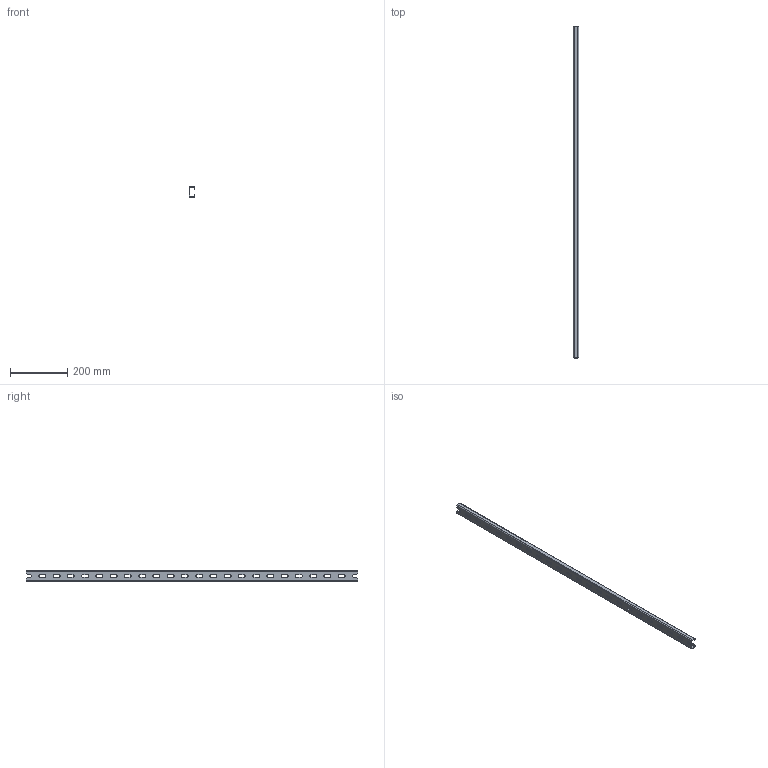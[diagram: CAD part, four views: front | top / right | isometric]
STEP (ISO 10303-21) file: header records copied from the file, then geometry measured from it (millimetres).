
FILE_DESCRIPTION (( 'STEP AP203' ), '1' );
FILE_NAME ('MG 120.04 C Òðàâåðñà ìîíòàæíàÿ.STEP', '2013-01-09T05:33:34', ( 'System' ), ( '' ), 'SwSTEP 2.0', 'SolidWorks 2012', '' );
FILE_SCHEMA (( 'CONFIG_CONTROL_DESIGN' ));
Length unit declared in the file: millimetre
Products named in the file (1): MG 120.04 C Òðàâåðñà ìîíòàæíàÿ
Bounding box: 18.5 x 1164.5 x 38 mm (x, y, z)
Volume: 185016.5 mm3; surface area: 192766.4 mm2
Topology: 1 solids, 1 shells, 142 faces, 388 edges, 248 vertices
Faces by surface type: plane 88, cylinder 54
Entity records: 4629 total; most frequent: DIRECTION 782, CARTESIAN_POINT 779, ORIENTED_EDGE 776, EDGE_CURVE 388, LINE 280, VECTOR 280, AXIS2_PLACEMENT_3D 251, VERTEX_POINT 248
